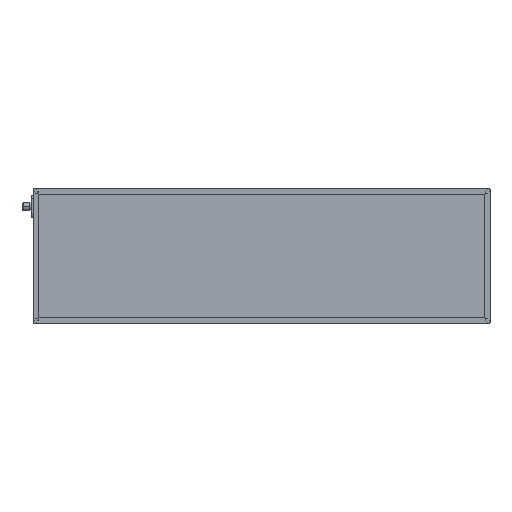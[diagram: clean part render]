
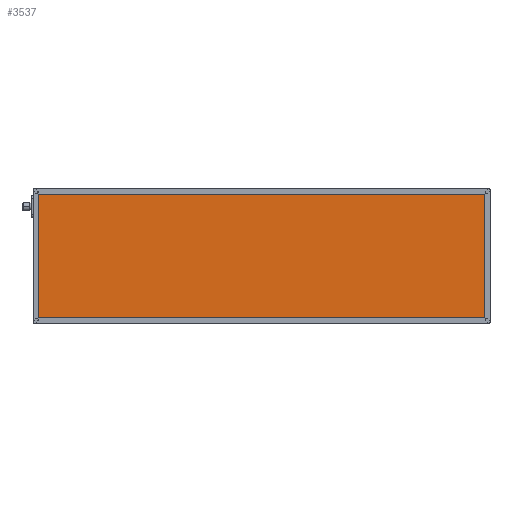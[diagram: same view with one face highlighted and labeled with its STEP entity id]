
A CAD part, top view. The second image highlights one B-rep face of the part: STEP entity #3537.
In plain terms, the highlighted planar face has unit normal (0, 0, 1).
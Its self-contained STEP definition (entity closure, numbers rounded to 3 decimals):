
#480 = CARTESIAN_POINT ( 'NONE',  ( 0., 0., 41.85 ) ) ;
#1334 = VERTEX_POINT ( 'NONE', #8113 ) ;
#1525 = ORIENTED_EDGE ( 'NONE', *, *, #11817, .T. ) ;
#1587 = CARTESIAN_POINT ( 'NONE',  ( 4., 4., 41.85 ) ) ;
#1919 = DIRECTION ( 'NONE',  ( 1., 0., 0. ) ) ;
#1960 = PLANE ( 'NONE',  #14893 ) ;
#2220 = FACE_OUTER_BOUND ( 'NONE', #2460, .T. ) ;
#2460 = EDGE_LOOP ( 'NONE', ( #13114, #16049, #9912, #1525 ) ) ;
#2653 = VERTEX_POINT ( 'NONE', #7839 ) ;
#2886 = CARTESIAN_POINT ( 'NONE',  ( 0., 4., 41.85 ) ) ;
#3537 = ADVANCED_FACE ( 'NONE', ( #2220 ), #1960, .F. ) ;
#4496 = LINE ( 'NONE', #16350, #12028 ) ;
#5940 = EDGE_CURVE ( 'NONE', #14597, #1334, #6131, .T. ) ;
#6131 = LINE ( 'NONE', #11370, #8788 ) ;
#6978 = EDGE_CURVE ( 'NONE', #1334, #2653, #14888, .T. ) ;
#7839 = CARTESIAN_POINT ( 'NONE',  ( 4., 196., 41.85 ) ) ;
#8113 = CARTESIAN_POINT ( 'NONE',  ( 696., 196., 41.85 ) ) ;
#8788 = VECTOR ( 'NONE', #16679, 1000. ) ;
#9912 = ORIENTED_EDGE ( 'NONE', *, *, #15621, .T. ) ;
#10510 = VERTEX_POINT ( 'NONE', #1587 ) ;
#10888 = DIRECTION ( 'NONE',  ( -1., 0., 0. ) ) ;
#11129 = DIRECTION ( 'NONE',  ( 0., -1., 0. ) ) ;
#11370 = CARTESIAN_POINT ( 'NONE',  ( 696., 0., 41.85 ) ) ;
#11817 = EDGE_CURVE ( 'NONE', #10510, #14597, #13851, .T. ) ;
#12028 = VECTOR ( 'NONE', #11129, 1000. ) ;
#12366 = CARTESIAN_POINT ( 'NONE',  ( 0., 196., 41.85 ) ) ;
#12499 = VECTOR ( 'NONE', #1919, 1000. ) ;
#12591 = DIRECTION ( 'NONE',  ( 0., 0., -1. ) ) ;
#13114 = ORIENTED_EDGE ( 'NONE', *, *, #5940, .T. ) ;
#13851 = LINE ( 'NONE', #2886, #12499 ) ;
#13884 = CARTESIAN_POINT ( 'NONE',  ( 696., 4., 41.85 ) ) ;
#13887 = DIRECTION ( 'NONE',  ( -1., 0., 0. ) ) ;
#14597 = VERTEX_POINT ( 'NONE', #13884 ) ;
#14888 = LINE ( 'NONE', #12366, #15713 ) ;
#14893 = AXIS2_PLACEMENT_3D ( 'NONE', #480, #12591, #13887 ) ;
#15621 = EDGE_CURVE ( 'NONE', #2653, #10510, #4496, .T. ) ;
#15713 = VECTOR ( 'NONE', #10888, 1000. ) ;
#16049 = ORIENTED_EDGE ( 'NONE', *, *, #6978, .T. ) ;
#16350 = CARTESIAN_POINT ( 'NONE',  ( 4., 0., 41.85 ) ) ;
#16679 = DIRECTION ( 'NONE',  ( 0., 1., 0. ) ) ;
